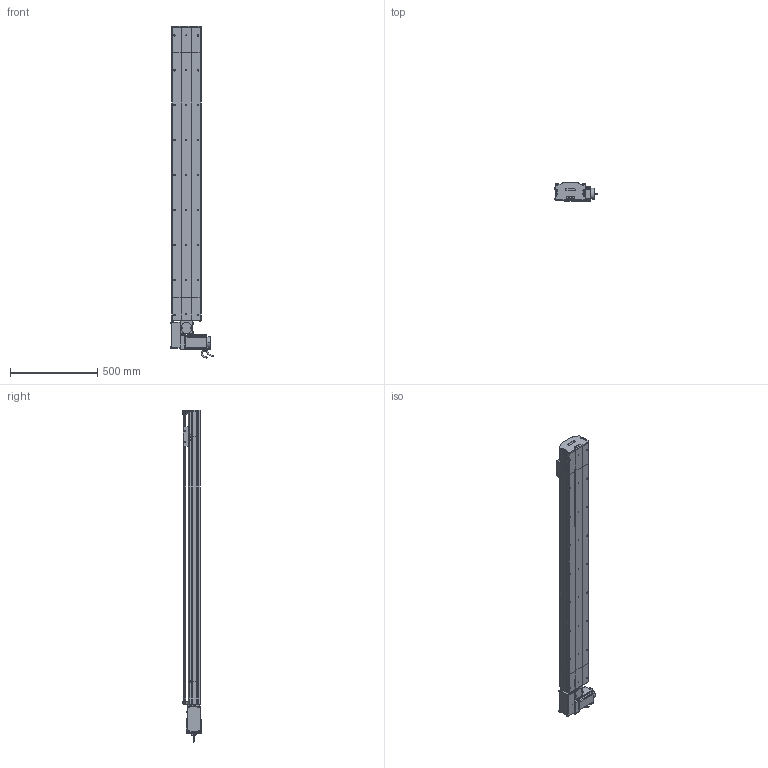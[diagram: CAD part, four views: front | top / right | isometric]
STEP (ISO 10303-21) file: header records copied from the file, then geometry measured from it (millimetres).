
FILE_DESCRIPTION (( 'STEP AP214' ), '1' );
FILE_NAME ('D17 TBN RH S1400.STEP', '2010-06-30T10:54:57', ( 'Christophe Gaillard' ), ( 'SGA' ), 'SwSTEP 2.0', 'SolidWorks 2010', '' );
FILE_SCHEMA (( 'AUTOMOTIVE_DESIGN' ));
Length unit declared in the file: millimetre
Products named in the file (40): guide D17; Chariot D17 TBN; chariot D17 TBN; vis M5 L25_Default; vis M5 L12_Default; vis M5 L8 90°_Default; couvercle D17B course L1400_Default; corp D17B 1400_Default; Couroie+ rail D17 Course 1400 ; course 1400 D17B_Default; Head RH D17B_Default; D17 TBN RH S1400; cache D17_Default; couvercle D17B head_Default; corpl head D17 _Default; poulie head_Default; Moteur motionking 90BLDC125A-640; plaque de  bout head D17B RH_Default; vis M5 L5_Default; Arbre+rail head D17B; couroie head D17_Default; corps 90BLDC125A-640; codeur 90BLDC125-640; tete d''axe poulie D17B; Conecteur_Default; poulie tail_Default; couvercle D17B_Default; Couroie tail D17B_Default; corpl tail D17B_Default; avant 90BLDC125A-640; Conecteur2_Default; plaque de  bout tail D17B_Default; Rail D17B; vis M5 L70_Default; Tail D17B_Default; Renvoi RH_Default; vis M5 L16_Default; cache arbre D17_Default; Vis M5 L16-2_Default; Plaque racord D17_Default
Assembly tree (66 placements, depth 4):
  D17 TBN RH S1400
    Head RH D17B_Default
      vis M5 L25_Default  x2
      plaque de  bout head D17B RH_Default
      Renvoi RH_Default
      vis M5 L5_Default  x4
      cache D17_Default  x2
      vis M5 L12_Default  x8
      Plaque racord D17_Default
      cache arbre D17_Default
      vis M5 L70_Default  x4
      couroie head D17_Default
      Vis M5 L16-2_Default  x4
      vis M5 L16_Default  x2
      Moteur motionking 90BLDC125A-640
        avant 90BLDC125A-640
        corps 90BLDC125A-640
        codeur 90BLDC125-640
        Conecteur2_Default
        Conecteur_Default
      corpl head D17 _Default
      couvercle D17B head_Default
      Arbre+rail head D17B
      poulie head_Default
    Tail D17B_Default
      corpl tail D17B_Default
      vis M5 L12_Default  x4
      vis M5 L25_Default  x2
      poulie tail_Default
      Couroie tail D17B_Default
      Rail D17B
      plaque de  bout tail D17B_Default
      vis M5 L8 90°_Default  x2
      tete d''axe poulie D17B
      couvercle D17B_Default
    chariot D17 TBN
      guide D17  x2
      Chariot D17 TBN
    course 1400 D17B_Default
      Couroie+ rail D17 Course 1400 
      corp D17B 1400_Default
      couvercle D17B course L1400_Default
Bounding box: 245.2 x 105.65 x 1900.95 mm (x, y, z)
Volume: 11041287.1 mm3; surface area: 3137522.2 mm2
Topology: 89 solids, 89 shells, 2555 faces, 6473 edges, 4174 vertices
Faces by surface type: plane 1533, cylinder 725, bspline 136, cone 80, torus 77, sphere 4
Entity records: 82379 total; most frequent: CARTESIAN_POINT 24671, ORIENTED_EDGE 10118, DIRECTION 9572, EDGE_CURVE 5059, VECTOR 3394, LINE 3394, VERTEX_POINT 3318, AXIS2_PLACEMENT_3D 3089
